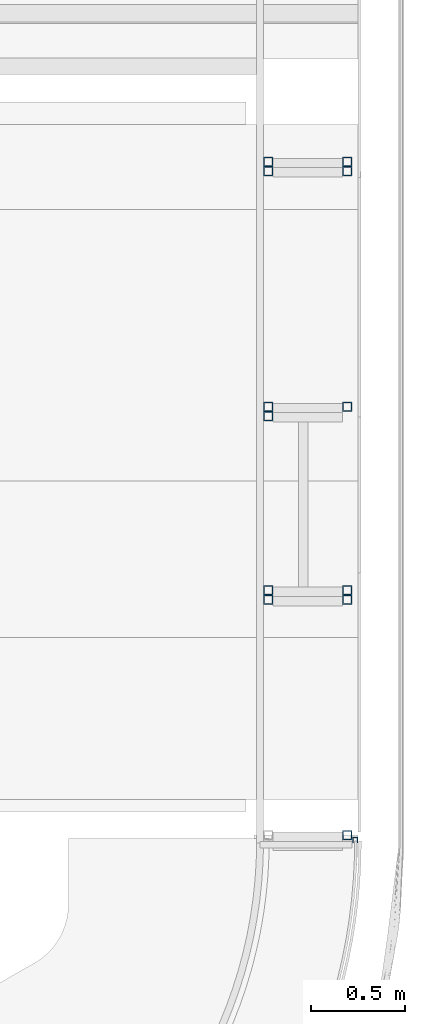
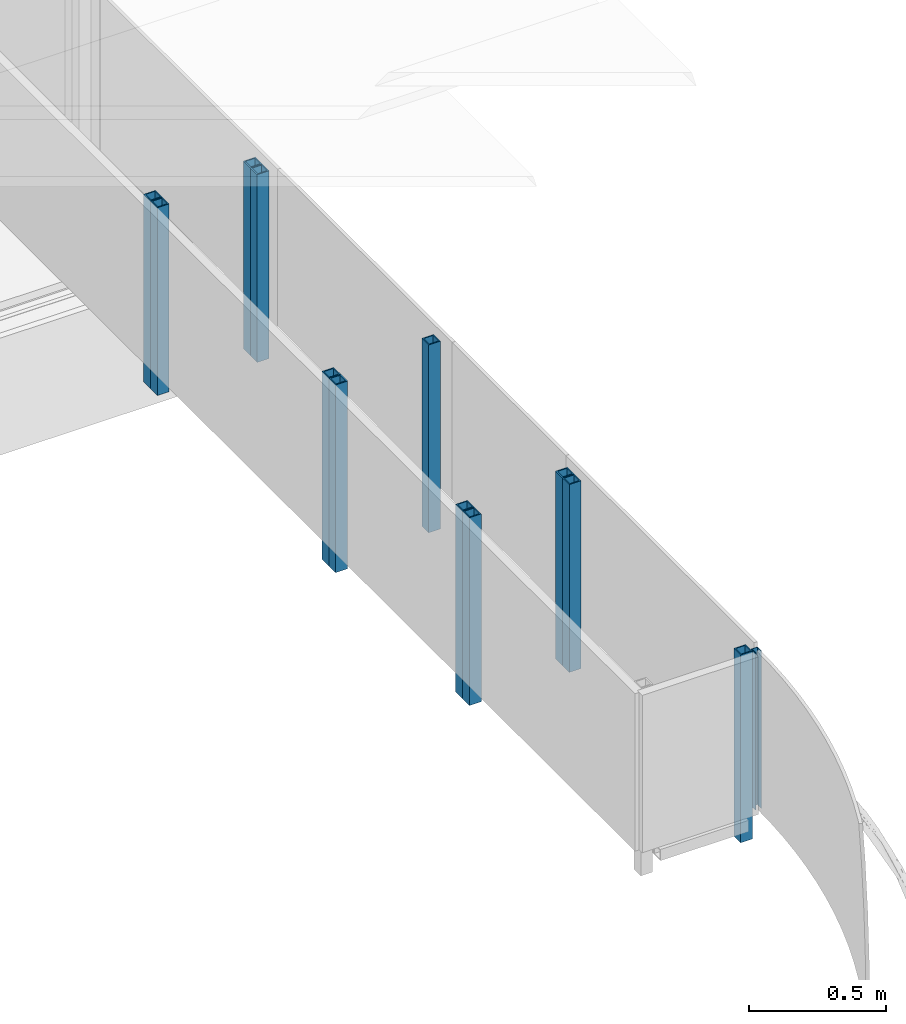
# One storey, part 4 of 18: 13 columns.
"""IFC2X3 building model written with IfcOpenShell, lengths in millimetres."""

from ifc_helpers import new_model, entity, si_unit, converted_unit, derived_unit, direction, frame, origin, origin_with_axes, place, context, subcontext, project, spatial, polyline, outline, extrude, faceted_brep, source, transform, mapped, material, type_object, element, save


model = new_model("IFC2X3")

# Units and contexts
model_context = context("Model", 3, precision=0.01, world=frame((0.0, 4.29681676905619e-09, 0.0)), true_north=direction((4.01073788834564e-13, 1.0)))
plan_context = context("Plan", 3, precision=0.01, world=frame((0.0, 4.29681676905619e-09, 0.0)), true_north=direction((4.01073788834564e-13, 1.0)))
body_context = subcontext(model_context, "Body", "Model", "MODEL_VIEW")
ifc_project = project(units=[converted_unit("PLANEANGLEUNIT", "DEGREE", entity("IfcPositiveLengthMeasure", 0.0174532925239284), si_unit("PLANEANGLEUNIT", "RADIAN"), dimensions=[0, 0, 0, 0, 0, 0, 0]), si_unit("AREAUNIT", "SQUARE_METRE"), si_unit("LENGTHUNIT", "METRE", prefix="MILLI"), si_unit("MASSUNIT", "GRAM", prefix="KILO"), si_unit("POWERUNIT", "WATT"), si_unit("PRESSUREUNIT", "PASCAL"), si_unit("FORCEUNIT", "NEWTON", prefix="KILO"), si_unit("ELECTRICVOLTAGEUNIT", "VOLT"), si_unit("ELECTRICCURRENTUNIT", "AMPERE"), si_unit("THERMODYNAMICTEMPERATUREUNIT", "DEGREE_CELSIUS"), si_unit("TIMEUNIT", "SECOND"), si_unit("VOLUMEUNIT", "CUBIC_METRE"), derived_unit("LINEARVELOCITYUNIT", [(si_unit("LENGTHUNIT", "METRE"), 1), (si_unit("TIMEUNIT", "SECOND"), -1)]), derived_unit("VOLUMETRICFLOWRATEUNIT", [(si_unit("VOLUMEUNIT", "CUBIC_METRE"), 1), (si_unit("TIMEUNIT", "SECOND"), -1)]), derived_unit("THERMALTRANSMITTANCEUNIT", [(si_unit("POWERUNIT", "WATT"), 1), (si_unit("THERMODYNAMICTEMPERATUREUNIT", "KELVIN"), -1), (si_unit("AREAUNIT", "SQUARE_METRE"), -1)]), derived_unit("SOUNDPRESSUREUNIT", [(si_unit("PRESSUREUNIT", "PASCAL"), 1)])], contexts=[model_context, plan_context])

# Site, building, storey
site_placement = place(None, origin_with_axes())
site = spatial("IfcSite", under=ifc_project, at=site_placement, Name="ENGM", CompositionType="ELEMENT")
building_placement = place(site_placement, origin_with_axes())
building = spatial("IfcBuilding", under=site, at=building_placement, Name="TH", CompositionType="ELEMENT")
storey_placement = place(building_placement, frame((0.0, 0.0, 210200.0), z_axis=(0.0, 0.0, 1.0), x_axis=(1.0, 0.0, 0.0)))
storey = spatial("IfcBuildingStorey", under=building, at=storey_placement, Name="Nivå F - 0,7 m", CompositionType="ELEMENT", Elevation=210200.0)

# Columns
ifc_material = material(Name="_NSW Stål")
column_type_1 = type_object("IfcColumnType", Name="A241 - Glassramme Book Shop:A241 - 30x27mm", PredefinedType="COLUMN", material=ifc_material)
shared_shape_1 = source(origin(), body_context, "Body", "Brep", [
    faceted_brep([(-13.4999999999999, -15.0, 210200.0), (-13.4999999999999, 15.0, 210200.0), (13.5000000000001, 15.0, 210200.0), (13.5000000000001, -15.0, 210200.0), (11.5000000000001, -15.0, 210200.0), (11.5000000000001, 13.0, 210200.0), (-11.4999999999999, 13.0, 210200.0), (-11.4999999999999, -15.0, 210200.0), (-11.4999999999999, -15.0, 210900.0), (-13.4999999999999, -15.0, 210900.0), (-11.4999999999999, 13.0, 210900.0), (11.5000000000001, 13.0, 210900.0), (11.5000000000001, -15.0, 210900.0), (13.5000000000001, -15.0, 210900.0), (13.5000000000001, 15.0, 210900.0), (-13.4999999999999, 15.0, 210900.0)], [[[0, 1, 2, 3, 4, 5, 6, 7]], [[0, 7, 8, 9]], [[7, 6, 10, 8]], [[6, 5, 11, 10]], [[5, 4, 12, 11]], [[4, 3, 13, 12]], [[3, 2, 14, 13]], [[2, 1, 15, 14]], [[1, 0, 9, 15]], [[9, 8, 10, 11, 12, 13, 14, 15]]]),
])
column_placement = place(storey_placement, frame((910381.499999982, 480695.976005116, -210200.0), z_axis=(0.0, 0.0, 1.0), x_axis=(1.0, 0.0, 0.0)))
element("IfcColumn", 1, at=column_placement, inside=storey, type_object=column_type_1, material=ifc_material, Name="A241 - Glassramme Book Shop:A241 - 30x27mm", ObjectType="A241 - Glassramme Book Shop:A241 - 30x27mm", context=body_context, shape_type="MappedRepresentation", body=[
    mapped(shared_shape_1, transform((0.0, 0.0, 0.0), scale=1.0)),
])
column_type_2 = type_object("IfcColumnType", Name="B222 - HUP7:B222 - HUP 50x50x5", PredefinedType="COLUMN", material=ifc_material)
shared_shape_2 = source(origin(), body_context, "Body", "SweptSolid", [
    extrude(outline(polyline([(-25.0, -25.0), (25.0, -25.0), (25.0, 25.0), (-25.0, 25.0), (-25.0, -25.0)]), holes=[polyline([(-20.0, -20.0), (-20.0, 20.0), (20.0, 20.0), (20.0, -20.0), (-20.0, -20.0)])]), frame((0.0, 0.0, 210065.0), z_axis=(0.0, 0.0, 1.0), x_axis=(-1.0, 0.0, 0.0)), (0.0, 0.0, 1.0), 835.000000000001),
])
for number, where, z_axis, x_axis in (
    (2, (910340.000000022, 480720.579202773, -210200.0), (0.0, 0.0, 1.0), (0.0, 1.0, 0.0)),
    (3, (909920.000000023, 481969.618432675, -210200.0), (0.0, 0.0, 1.0), (0.0, 1.0, 0.0)),
    (4, (910340.000000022, 481969.618432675, -210200.0), (0.0, 0.0, 1.0), (0.0, 1.0, 0.0)),
    (5, (909920.000000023, 482019.618432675, -210200.0), (0.0, 0.0, 1.0), (0.0, 1.0, 0.0)),
    (6, (910340.000000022, 482019.618432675, -210200.0), (0.0, 0.0, 1.0), (0.0, 1.0, 0.0)),
    (7, (909920.000000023, 482943.654644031, -210200.0), (0.0, 0.0, 1.0), (0.0, 1.0, 0.0)),
    (8, (909920.000000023, 482993.654644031, -210200.0), (0.0, 0.0, 1.0), (0.0, 1.0, 0.0)),
    (9, (910340.000000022, 482993.654644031, -210200.0), (0.0, 0.0, 1.0), (0.0, 1.0, 0.0)),
    (10, (909920.000000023, 484242.694644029, -210200.0), (0.0, 0.0, 1.0), (0.0, 1.0, 0.0)),
    (11, (910340.000000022, 484242.694644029, -210200.0), (0.0, 0.0, 1.0), (0.0, 1.0, 0.0)),
    (12, (909920.000000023, 484292.694644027, -210200.0), (0.0, 0.0, 1.0), (0.0, 1.0, 0.0)),
    (13, (910340.000000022, 484292.694644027, -210200.0), (0.0, 0.0, 1.0), (0.0, 1.0, 0.0)),
):
    element("IfcColumn", number, at=place(storey_placement, frame(where, z_axis=z_axis, x_axis=x_axis)), inside=storey, type_object=column_type_2, material=ifc_material, Name="B222 - HUP7:B222 - HUP 50x50x5", ObjectType="B222 - HUP7:B222 - HUP 50x50x5", context=body_context, shape_type="MappedRepresentation", body=[
        mapped(shared_shape_2, transform((0.0, 0.0, 0.0), scale=1.0)),
    ])

save(model, "model.ifc")
